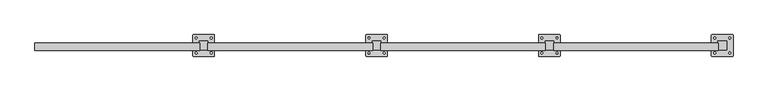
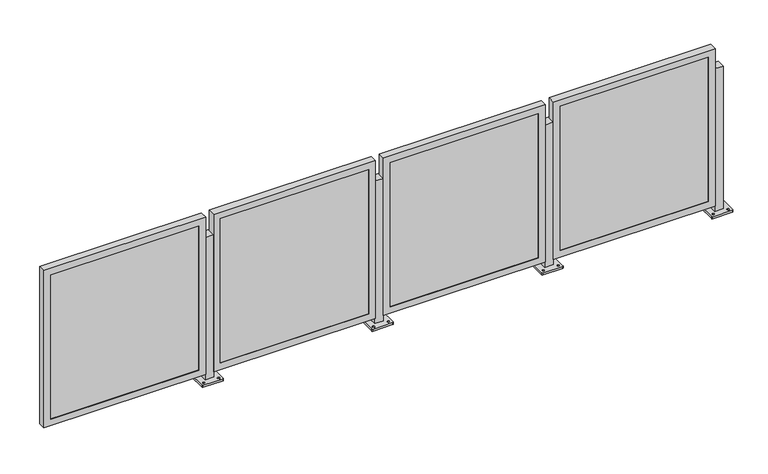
"""IFC4 building model written with IfcOpenShell, lengths in millimetres: railing geometry, Railing - Amico Architectural - Perforated Railing - Bilbao."""

from ifc_helpers import new_model, si_unit, frame, origin, place, context, project, spatial, polyline, circle_curve, outline, extrude, faceted_brep, source, transform, mapped, element, save
from ifc_brep_helpers import plane_surface, cylinder_surface, revolved_surface, advanced_brep


def railing_005fe630(model_context):
    return source(origin(), model_context, "Body", "SolidModel", [
        advanced_brep(
        [(-7245.6608616, -3820.6813531, 914.4), (-7245.6608616, -3871.4813531, 914.4), (-7194.8608616, -3871.4813531, 914.4), (-7194.8608616, -3820.6813531, 914.4), (-7283.7608618, -3906.4063121, 0.0), (-7283.7608618, -3785.7563942, 0.0), (-7280.5858336, -3782.581366, 0.0), (-7159.9358896, -3782.581366, 0.0), (-7156.7608615, -3785.7563942, 0.0), (-7156.7608615, -3906.4063121, 0.0), (-7159.9358896, -3909.5813403, 0.0), (-7280.5858336, -3909.5813403, 0.0), (-7264.7108492, -3896.0876078, 0.0), (-7264.7108492, -3884.9750953, 0.0), (-7264.7108601, -3807.1876034, 0.0), (-7264.7108601, -3796.0751218, 0.0), (-7175.8108482, -3896.0876063, 0.0), (-7175.8108482, -3884.9750956, 0.0), (-7175.8108591, -3807.1876019, 0.0), (-7175.8108591, -3796.0751221, 0.0), (-7245.6608616, -3820.6813531, 12.7), (-7245.6608616, -3871.4813531, 12.7), (-7194.8608616, -3871.4813531, 12.7), (-7194.8608616, -3820.6813531, 12.7), (-7283.7608618, -3906.4063121, 12.7), (-7280.5858336, -3909.5813403, 12.7), (-7159.9358896, -3909.5813403, 12.7), (-7156.7608615, -3906.4063121, 12.7), (-7156.7608615, -3785.7563942, 12.7), (-7159.9358896, -3782.581366, 12.7), (-7280.5858336, -3782.581366, 12.7), (-7283.7608618, -3785.7563942, 12.7), (-7264.7108492, -3896.0876078, 12.7), (-7264.7108492, -3884.9750953, 12.7), (-7264.7108601, -3807.1876034, 12.7), (-7264.7108601, -3796.0751218, 12.7), (-7175.8108482, -3896.0876063, 12.7), (-7175.8108482, -3884.9750956, 12.7), (-7175.8108591, -3807.1876019, 12.7), (-7175.8108591, -3796.0751221, 12.7)],
        [
            (0, 1),
            (1, 2),
            (2, 3),
            (3, 0),
            (4, 5),
            (5, 6, circle_curve(frame((-7280.5858336, -3785.7563942, 0.0), z_axis=(0.0, 0.0, -1.0), x_axis=(0.0, 1.0, 0.0)), 3.1750282)),
            (6, 7),
            (7, 8, circle_curve(frame((-7159.9358896, -3785.7563942, 0.0), z_axis=(0.0, 0.0, -1.0), x_axis=(0.0, 1.0, 0.0)), 3.1750282)),
            (8, 9),
            (9, 10, circle_curve(frame((-7159.9358896, -3906.4063121, 0.0), z_axis=(0.0, 0.0, -1.0), x_axis=(0.0, 1.0, 0.0)), 3.1750282)),
            (10, 11),
            (11, 4, circle_curve(frame((-7280.5858336, -3906.4063121, 0.0), z_axis=(0.0, 0.0, -1.0), x_axis=(0.0, 1.0, 0.0)), 3.1750282)),
            (12, 13, circle_curve(frame((-7264.7108492, -3890.5313516, 0.0), z_axis=(0.0, 0.0, 1.0), x_axis=(0.0, 1.0, 0.0)), 5.5562562)),
            (13, 12, circle_curve(frame((-7264.7108492, -3890.5313516, 0.0), z_axis=(0.0, 0.0, 1.0), x_axis=(0.0, 1.0, 0.0)), 5.5562562)),
            (14, 15, circle_curve(frame((-7264.7108601, -3801.6313626, 0.0), z_axis=(0.0, 0.0, 1.0), x_axis=(0.0, 1.0, 0.0)), 5.5562408)),
            (15, 14, circle_curve(frame((-7264.7108601, -3801.6313626, 0.0), z_axis=(0.0, 0.0, 1.0), x_axis=(0.0, 1.0, 0.0)), 5.5562408)),
            (16, 17, circle_curve(frame((-7175.8108482, -3890.5313509, 0.0), z_axis=(0.0, 0.0, 1.0), x_axis=(0.0, 1.0, 0.0)), 5.5562553)),
            (17, 16, circle_curve(frame((-7175.8108482, -3890.5313509, 0.0), z_axis=(0.0, 0.0, 1.0), x_axis=(0.0, 1.0, 0.0)), 5.5562553)),
            (18, 19, circle_curve(frame((-7175.8108591, -3801.631362, 0.0), z_axis=(0.0, 0.0, 1.0), x_axis=(0.0, 1.0, 0.0)), 5.5562399)),
            (19, 18, circle_curve(frame((-7175.8108591, -3801.631362, 0.0), z_axis=(0.0, 0.0, 1.0), x_axis=(0.0, 1.0, 0.0)), 5.5562399)),
            (0, 20),
            (20, 21),
            (21, 1),
            (21, 22),
            (22, 2),
            (22, 23),
            (23, 3),
            (23, 20),
            (24, 25, circle_curve(frame((-7280.5858336, -3906.4063121, 12.7), z_axis=(0.0, 0.0, 1.0), x_axis=(0.0, 1.0, 0.0)), 3.1750282)),
            (25, 26),
            (26, 27, circle_curve(frame((-7159.9358896, -3906.4063121, 12.7), z_axis=(0.0, 0.0, 1.0), x_axis=(0.0, 1.0, 0.0)), 3.1750282)),
            (27, 28),
            (28, 29, circle_curve(frame((-7159.9358896, -3785.7563942, 12.7), z_axis=(0.0, 0.0, 1.0), x_axis=(0.0, 1.0, 0.0)), 3.1750282)),
            (29, 30),
            (30, 31, circle_curve(frame((-7280.5858336, -3785.7563942, 12.7), z_axis=(0.0, 0.0, 1.0), x_axis=(0.0, 1.0, 0.0)), 3.1750282)),
            (31, 24),
            (32, 33, circle_curve(frame((-7264.7108492, -3890.5313516, 12.7), z_axis=(0.0, 0.0, -1.0), x_axis=(0.0, 1.0, 0.0)), 5.5562562)),
            (33, 32, circle_curve(frame((-7264.7108492, -3890.5313516, 12.7), z_axis=(0.0, 0.0, -1.0), x_axis=(0.0, 1.0, 0.0)), 5.5562562)),
            (34, 35, circle_curve(frame((-7264.7108601, -3801.6313626, 12.7), z_axis=(0.0, 0.0, -1.0), x_axis=(0.0, 1.0, 0.0)), 5.5562408)),
            (35, 34, circle_curve(frame((-7264.7108601, -3801.6313626, 12.7), z_axis=(0.0, 0.0, -1.0), x_axis=(0.0, 1.0, 0.0)), 5.5562408)),
            (36, 37, circle_curve(frame((-7175.8108482, -3890.5313509, 12.7), z_axis=(0.0, 0.0, -1.0), x_axis=(0.0, 1.0, 0.0)), 5.5562553)),
            (37, 36, circle_curve(frame((-7175.8108482, -3890.5313509, 12.7), z_axis=(0.0, 0.0, -1.0), x_axis=(0.0, 1.0, 0.0)), 5.5562553)),
            (38, 39, circle_curve(frame((-7175.8108591, -3801.631362, 12.7), z_axis=(0.0, 0.0, -1.0), x_axis=(0.0, 1.0, 0.0)), 5.5562399)),
            (39, 38, circle_curve(frame((-7175.8108591, -3801.631362, 12.7), z_axis=(0.0, 0.0, -1.0), x_axis=(0.0, 1.0, 0.0)), 5.5562399)),
            (24, 4),
            (11, 25),
            (10, 26),
            (9, 27),
            (8, 28),
            (7, 29),
            (6, 30),
            (5, 31),
            (32, 12),
            (13, 33),
            (34, 14),
            (15, 35),
            (36, 16),
            (17, 37),
            (38, 18),
            (19, 39),
        ],
        [
            plane_surface(frame((-7245.6608616, -3871.4813531, 914.4), z_axis=(0.0, 0.0, 1.0), x_axis=(0.0, -1.0, 0.0))),
            plane_surface(frame((-7245.6608616, -3871.4813531, 0.0), z_axis=(0.0, 0.0, -1.0), x_axis=(0.0, 1.0, 0.0))),
            plane_surface(frame((-7245.6608616, -3820.6813531, 914.4), z_axis=(-1.0, 0.0, 0.0), x_axis=(0.0, 0.0, -1.0))),
            plane_surface(frame((-7245.6608616, -3871.4813531, 914.4), z_axis=(0.0, -1.0, 0.0), x_axis=(0.0, 0.0, -1.0))),
            plane_surface(frame((-7194.8608616, -3871.4813531, 914.4), z_axis=(1.0, 0.0, 0.0), x_axis=(0.0, 0.0, -1.0))),
            plane_surface(frame((-7194.8608616, -3820.6813531, 914.4), z_axis=(0.0, 1.0, 0.0), x_axis=(0.0, 0.0, -1.0))),
            plane_surface(frame((-7280.5858336, -3903.231284, 12.7), z_axis=(0.0, 0.0, 1.0), x_axis=(-1.0, 0.0, 0.0))),
            cylinder_surface(frame((-7280.5858336, -3906.4063121, 0.0), z_axis=(0.0, 0.0, 1.0), x_axis=(0.0, 1.0, 0.0)), 3.1750282),
            plane_surface(frame((-7280.5858336, -3909.5813403, 12.7), z_axis=(1.1945386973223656e-12, -1.0, 0.0), x_axis=(0.0, 0.0, -1.0))),
            cylinder_surface(frame((-7159.9358896, -3906.4063121, 0.0), z_axis=(0.0, 0.0, 1.0), x_axis=(0.0, 1.0, 0.0)), 3.1750282),
            plane_surface(frame((-7156.7608615, -3906.4063121, 12.7), z_axis=(1.0, 0.0, 0.0), x_axis=(0.0, 0.0, -1.0))),
            cylinder_surface(frame((-7159.9358896, -3785.7563942, 0.0), z_axis=(0.0, 0.0, 1.0), x_axis=(0.0, 1.0, 0.0)), 3.1750282),
            plane_surface(frame((-7159.9358896, -3782.581366, 12.7), z_axis=(-1.1946088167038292e-12, 1.0, 0.0), x_axis=(0.0, 0.0, -1.0))),
            cylinder_surface(frame((-7280.5858336, -3785.7563942, 0.0), z_axis=(0.0, 0.0, 1.0), x_axis=(0.0, 1.0, 0.0)), 3.1750282),
            plane_surface(frame((-7283.7608618, -3785.7563942, 12.7), z_axis=(-1.0, 0.0, 0.0), x_axis=(0.0, 0.0, -1.0))),
            revolved_surface(polyline([(-7264.7108492, -3884.9750954, 0.0), (-7264.7108492, -3884.9750954, 12.7)]), (-7264.7108492, -3890.5313516, 0.0), (0.0, 0.0, -1.0)),
            revolved_surface(polyline([(-7264.7108601, -3796.0751218, 0.0), (-7264.7108601, -3796.0751218, 12.7)]), (-7264.7108601, -3801.6313626, 0.0), (0.0, 0.0, -1.0)),
            revolved_surface(polyline([(-7175.8108482, -3884.9750956, 0.0), (-7175.8108482, -3884.9750956, 12.7)]), (-7175.8108482, -3890.5313509, 0.0), (0.0, 0.0, -1.0)),
            revolved_surface(polyline([(-7175.8108591, -3796.0751221, 0.0), (-7175.8108591, -3796.0751221, 12.7)]), (-7175.8108591, -3801.631362, 0.0), (0.0, 0.0, -1.0)),
        ],
        [
            (0, [[1, 2, 3, 4]]),
            (1, [[5, 6, 7, 8, 9, 10, 11, 12], [13, 14], [15, 16], [17, 18], [19, 20]]),
            (2, [[-1, 21, 22, 23]]),
            (3, [[-2, -23, 24, 25]]),
            (4, [[-3, -25, 26, 27]]),
            (5, [[-4, -27, 28, -21]]),
            (6, [[29, 30, 31, 32, 33, 34, 35, 36], [-22, -28, -26, -24], [37, 38], [39, 40], [41, 42], [43, 44]]),
            (7, [[-29, 45, -12, 46]]),
            (8, [[-30, -46, -11, 47]]),
            (9, [[-31, -47, -10, 48]]),
            (10, [[-32, -48, -9, 49]]),
            (11, [[-33, -49, -8, 50]]),
            (12, [[-34, -50, -7, 51]]),
            (13, [[-35, -51, -6, 52]]),
            (14, [[-36, -52, -5, -45]]),
            (15, [[-37, 53, -14, 54]]),
            (15, [[-38, -54, -13, -53]]),
            (16, [[-39, 55, -16, 56]]),
            (16, [[-40, -56, -15, -55]]),
            (17, [[-41, 57, -18, 58]]),
            (17, [[-42, -58, -17, -57]]),
            (18, [[-43, 59, -20, 60]]),
            (18, [[-44, -60, -19, -59]]),
        ],
    ),
        faceted_brep([(-8212.065315, -3874.2245531, 47.625), (-7243.690315, -3874.2245531, 47.625), (-7243.690315, -3874.2245531, 1044.575), (-8212.065315, -3874.2245531, 1044.575), (-8170.790315, -3874.2245531, 1003.3), (-7284.965315, -3874.2245531, 1003.3), (-7284.965315, -3874.2245531, 88.9), (-8170.790315, -3874.2245531, 88.9), (-8170.790315, -3871.4813531, 1003.3), (-8170.790315, -3871.4813531, 88.9), (-8212.065315, -3830.3512566, 1044.575), (-8212.065315, -3830.3512566, 47.625), (-8208.890315, -3830.3512566, 1041.4), (-8208.890315, -3871.4813531, 1041.4), (-8208.890315, -3871.4813531, 50.8), (-8208.890315, -3830.3512566, 50.8), (-7284.965315, -3871.4813531, 88.9), (-7243.690315, -3830.3512566, 47.625), (-7246.865315, -3871.4813531, 50.8), (-7246.865315, -3830.3512566, 50.8), (-7284.965315, -3871.4813531, 1003.3), (-7243.690315, -3830.3512566, 1044.575), (-7246.865315, -3871.4813531, 1041.4), (-7246.865315, -3830.3512566, 1041.4)], [[[0, 1, 2, 3], [4, 5, 6, 7]], [[8, 4, 7, 9]], [[3, 10, 11, 0]], [[12, 13, 14, 15]], [[9, 7, 6, 16]], [[0, 11, 17, 1]], [[15, 14, 18, 19]], [[16, 6, 5, 20]], [[1, 17, 21, 2]], [[19, 18, 22, 23]], [[20, 5, 4, 8]], [[10, 21, 17, 11], [15, 19, 23, 12]], [[2, 21, 10, 3]], [[13, 22, 18, 14], [9, 16, 20, 8]], [[23, 22, 13, 12]]]),
        extrude(outline(polyline([(-8208.890315, -3861.9563531), (-7246.865315, -3861.9563531), (-7246.865315, -3871.4813531), (-8208.890315, -3871.4813531), (-8208.890315, -3861.9563531)])), frame((0.0, 0.0, 50.8), z_axis=(0.0, 0.0, 1.0), x_axis=(1.0, 0.0, 0.0)), (0.0, 0.0, 1.0), 990.6),
        advanced_brep(
        [(-8261.6608616, -3820.6813531, 914.4), (-8261.6608616, -3871.4813531, 914.4), (-8210.8608616, -3871.4813531, 914.4), (-8210.8608616, -3820.6813531, 914.4), (-8299.7608618, -3906.4063121, 0.0), (-8299.7608618, -3785.7563942, 0.0), (-8296.5858336, -3782.581366, 0.0), (-8175.9358896, -3782.581366, 0.0), (-8172.7608615, -3785.7563942, 0.0), (-8172.7608615, -3906.4063121, 0.0), (-8175.9358896, -3909.5813403, 0.0), (-8296.5858336, -3909.5813403, 0.0), (-8280.7108492, -3896.0876078, 0.0), (-8280.7108492, -3884.9750953, 0.0), (-8280.7108601, -3807.1876034, 0.0), (-8280.7108601, -3796.0751218, 0.0), (-8191.8108482, -3896.0876063, 0.0), (-8191.8108482, -3884.9750956, 0.0), (-8191.8108591, -3807.1876019, 0.0), (-8191.8108591, -3796.0751221, 0.0), (-8261.6608616, -3820.6813531, 12.7), (-8261.6608616, -3871.4813531, 12.7), (-8210.8608616, -3871.4813531, 12.7), (-8210.8608616, -3820.6813531, 12.7), (-8299.7608618, -3906.4063121, 12.7), (-8296.5858336, -3909.5813403, 12.7), (-8175.9358896, -3909.5813403, 12.7), (-8172.7608615, -3906.4063121, 12.7), (-8172.7608615, -3785.7563942, 12.7), (-8175.9358896, -3782.581366, 12.7), (-8296.5858336, -3782.581366, 12.7), (-8299.7608618, -3785.7563942, 12.7), (-8280.7108492, -3896.0876078, 12.7), (-8280.7108492, -3884.9750953, 12.7), (-8280.7108601, -3807.1876034, 12.7), (-8280.7108601, -3796.0751218, 12.7), (-8191.8108482, -3896.0876063, 12.7), (-8191.8108482, -3884.9750956, 12.7), (-8191.8108591, -3807.1876019, 12.7), (-8191.8108591, -3796.0751221, 12.7)],
        [
            (0, 1),
            (1, 2),
            (2, 3),
            (3, 0),
            (4, 5),
            (5, 6, circle_curve(frame((-8296.5858336, -3785.7563942, 0.0), z_axis=(0.0, 0.0, -1.0), x_axis=(0.0, 1.0, 0.0)), 3.1750282)),
            (6, 7),
            (7, 8, circle_curve(frame((-8175.9358896, -3785.7563942, 0.0), z_axis=(0.0, 0.0, -1.0), x_axis=(0.0, 1.0, 0.0)), 3.1750282)),
            (8, 9),
            (9, 10, circle_curve(frame((-8175.9358896, -3906.4063121, 0.0), z_axis=(0.0, 0.0, -1.0), x_axis=(0.0, 1.0, 0.0)), 3.1750282)),
            (10, 11),
            (11, 4, circle_curve(frame((-8296.5858336, -3906.4063121, 0.0), z_axis=(0.0, 0.0, -1.0), x_axis=(0.0, 1.0, 0.0)), 3.1750282)),
            (12, 13, circle_curve(frame((-8280.7108492, -3890.5313516, 0.0), z_axis=(0.0, 0.0, 1.0), x_axis=(0.0, 1.0, 0.0)), 5.5562562)),
            (13, 12, circle_curve(frame((-8280.7108492, -3890.5313516, 0.0), z_axis=(0.0, 0.0, 1.0), x_axis=(0.0, 1.0, 0.0)), 5.5562562)),
            (14, 15, circle_curve(frame((-8280.7108601, -3801.6313626, 0.0), z_axis=(0.0, 0.0, 1.0), x_axis=(0.0, 1.0, 0.0)), 5.5562408)),
            (15, 14, circle_curve(frame((-8280.7108601, -3801.6313626, 0.0), z_axis=(0.0, 0.0, 1.0), x_axis=(0.0, 1.0, 0.0)), 5.5562408)),
            (16, 17, circle_curve(frame((-8191.8108482, -3890.5313509, 0.0), z_axis=(0.0, 0.0, 1.0), x_axis=(0.0, 1.0, 0.0)), 5.5562553)),
            (17, 16, circle_curve(frame((-8191.8108482, -3890.5313509, 0.0), z_axis=(0.0, 0.0, 1.0), x_axis=(0.0, 1.0, 0.0)), 5.5562553)),
            (18, 19, circle_curve(frame((-8191.8108591, -3801.631362, 0.0), z_axis=(0.0, 0.0, 1.0), x_axis=(0.0, 1.0, 0.0)), 5.5562399)),
            (19, 18, circle_curve(frame((-8191.8108591, -3801.631362, 0.0), z_axis=(0.0, 0.0, 1.0), x_axis=(0.0, 1.0, 0.0)), 5.5562399)),
            (0, 20),
            (20, 21),
            (21, 1),
            (21, 22),
            (22, 2),
            (22, 23),
            (23, 3),
            (23, 20),
            (24, 25, circle_curve(frame((-8296.5858336, -3906.4063121, 12.7), z_axis=(0.0, 0.0, 1.0), x_axis=(0.0, 1.0, 0.0)), 3.1750282)),
            (25, 26),
            (26, 27, circle_curve(frame((-8175.9358896, -3906.4063121, 12.7), z_axis=(0.0, 0.0, 1.0), x_axis=(0.0, 1.0, 0.0)), 3.1750282)),
            (27, 28),
            (28, 29, circle_curve(frame((-8175.9358896, -3785.7563942, 12.7), z_axis=(0.0, 0.0, 1.0), x_axis=(0.0, 1.0, 0.0)), 3.1750282)),
            (29, 30),
            (30, 31, circle_curve(frame((-8296.5858336, -3785.7563942, 12.7), z_axis=(0.0, 0.0, 1.0), x_axis=(0.0, 1.0, 0.0)), 3.1750282)),
            (31, 24),
            (32, 33, circle_curve(frame((-8280.7108492, -3890.5313516, 12.7), z_axis=(0.0, 0.0, -1.0), x_axis=(0.0, 1.0, 0.0)), 5.5562562)),
            (33, 32, circle_curve(frame((-8280.7108492, -3890.5313516, 12.7), z_axis=(0.0, 0.0, -1.0), x_axis=(0.0, 1.0, 0.0)), 5.5562562)),
            (34, 35, circle_curve(frame((-8280.7108601, -3801.6313626, 12.7), z_axis=(0.0, 0.0, -1.0), x_axis=(0.0, 1.0, 0.0)), 5.5562408)),
            (35, 34, circle_curve(frame((-8280.7108601, -3801.6313626, 12.7), z_axis=(0.0, 0.0, -1.0), x_axis=(0.0, 1.0, 0.0)), 5.5562408)),
            (36, 37, circle_curve(frame((-8191.8108482, -3890.5313509, 12.7), z_axis=(0.0, 0.0, -1.0), x_axis=(0.0, 1.0, 0.0)), 5.5562553)),
            (37, 36, circle_curve(frame((-8191.8108482, -3890.5313509, 12.7), z_axis=(0.0, 0.0, -1.0), x_axis=(0.0, 1.0, 0.0)), 5.5562553)),
            (38, 39, circle_curve(frame((-8191.8108591, -3801.631362, 12.7), z_axis=(0.0, 0.0, -1.0), x_axis=(0.0, 1.0, 0.0)), 5.5562399)),
            (39, 38, circle_curve(frame((-8191.8108591, -3801.631362, 12.7), z_axis=(0.0, 0.0, -1.0), x_axis=(0.0, 1.0, 0.0)), 5.5562399)),
            (24, 4),
            (11, 25),
            (10, 26),
            (9, 27),
            (8, 28),
            (7, 29),
            (6, 30),
            (5, 31),
            (32, 12),
            (13, 33),
            (34, 14),
            (15, 35),
            (36, 16),
            (17, 37),
            (38, 18),
            (19, 39),
        ],
        [
            plane_surface(frame((-8261.6608616, -3871.4813531, 914.4), z_axis=(0.0, 0.0, 1.0), x_axis=(0.0, -1.0, 0.0))),
            plane_surface(frame((-8261.6608616, -3871.4813531, 0.0), z_axis=(0.0, 0.0, -1.0), x_axis=(0.0, 1.0, 0.0))),
            plane_surface(frame((-8261.6608616, -3820.6813531, 914.4), z_axis=(-1.0, 0.0, 0.0), x_axis=(0.0, 0.0, -1.0))),
            plane_surface(frame((-8261.6608616, -3871.4813531, 914.4), z_axis=(0.0, -1.0, 0.0), x_axis=(0.0, 0.0, -1.0))),
            plane_surface(frame((-8210.8608616, -3871.4813531, 914.4), z_axis=(1.0, 0.0, 0.0), x_axis=(0.0, 0.0, -1.0))),
            plane_surface(frame((-8210.8608616, -3820.6813531, 914.4), z_axis=(0.0, 1.0, 0.0), x_axis=(0.0, 0.0, -1.0))),
            plane_surface(frame((-8296.5858336, -3903.231284, 12.7), z_axis=(0.0, 0.0, 1.0), x_axis=(-1.0, 0.0, 0.0))),
            cylinder_surface(frame((-8296.5858336, -3906.4063121, 0.0), z_axis=(0.0, 0.0, 1.0), x_axis=(0.0, 1.0, 0.0)), 3.1750282),
            plane_surface(frame((-8296.5858336, -3909.5813403, 12.7), z_axis=(1.1945386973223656e-12, -1.0, 0.0), x_axis=(0.0, 0.0, -1.0))),
            cylinder_surface(frame((-8175.9358896, -3906.4063121, 0.0), z_axis=(0.0, 0.0, 1.0), x_axis=(0.0, 1.0, 0.0)), 3.1750282),
            plane_surface(frame((-8172.7608615, -3906.4063121, 12.7), z_axis=(1.0, 0.0, 0.0), x_axis=(0.0, 0.0, -1.0))),
            cylinder_surface(frame((-8175.9358896, -3785.7563942, 0.0), z_axis=(0.0, 0.0, 1.0), x_axis=(0.0, 1.0, 0.0)), 3.1750282),
            plane_surface(frame((-8175.9358896, -3782.581366, 12.7), z_axis=(-1.1946088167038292e-12, 1.0, 0.0), x_axis=(0.0, 0.0, -1.0))),
            cylinder_surface(frame((-8296.5858336, -3785.7563942, 0.0), z_axis=(0.0, 0.0, 1.0), x_axis=(0.0, 1.0, 0.0)), 3.1750282),
            plane_surface(frame((-8299.7608618, -3785.7563942, 12.7), z_axis=(-1.0, 0.0, 0.0), x_axis=(0.0, 0.0, -1.0))),
            revolved_surface(polyline([(-8280.7108492, -3884.9750954, 0.0), (-8280.7108492, -3884.9750954, 12.7)]), (-8280.7108492, -3890.5313516, 0.0), (0.0, 0.0, -1.0)),
            revolved_surface(polyline([(-8280.7108601, -3796.0751218, 0.0), (-8280.7108601, -3796.0751218, 12.7)]), (-8280.7108601, -3801.6313626, 0.0), (0.0, 0.0, -1.0)),
            revolved_surface(polyline([(-8191.8108482, -3884.9750956, 0.0), (-8191.8108482, -3884.9750956, 12.7)]), (-8191.8108482, -3890.5313509, 0.0), (0.0, 0.0, -1.0)),
            revolved_surface(polyline([(-8191.8108591, -3796.0751221, 0.0), (-8191.8108591, -3796.0751221, 12.7)]), (-8191.8108591, -3801.631362, 0.0), (0.0, 0.0, -1.0)),
        ],
        [
            (0, [[1, 2, 3, 4]]),
            (1, [[5, 6, 7, 8, 9, 10, 11, 12], [13, 14], [15, 16], [17, 18], [19, 20]]),
            (2, [[-1, 21, 22, 23]]),
            (3, [[-2, -23, 24, 25]]),
            (4, [[-3, -25, 26, 27]]),
            (5, [[-4, -27, 28, -21]]),
            (6, [[29, 30, 31, 32, 33, 34, 35, 36], [-22, -28, -26, -24], [37, 38], [39, 40], [41, 42], [43, 44]]),
            (7, [[-29, 45, -12, 46]]),
            (8, [[-30, -46, -11, 47]]),
            (9, [[-31, -47, -10, 48]]),
            (10, [[-32, -48, -9, 49]]),
            (11, [[-33, -49, -8, 50]]),
            (12, [[-34, -50, -7, 51]]),
            (13, [[-35, -51, -6, 52]]),
            (14, [[-36, -52, -5, -45]]),
            (15, [[-37, 53, -14, 54]]),
            (15, [[-38, -54, -13, -53]]),
            (16, [[-39, 55, -16, 56]]),
            (16, [[-40, -56, -15, -55]]),
            (17, [[-41, 57, -18, 58]]),
            (17, [[-42, -58, -17, -57]]),
            (18, [[-43, 59, -20, 60]]),
            (18, [[-44, -60, -19, -59]]),
        ],
    ),
        faceted_brep([(-9228.065315, -3874.2245531, 47.625), (-8259.690315, -3874.2245531, 47.625), (-8259.690315, -3874.2245531, 1044.575), (-9228.065315, -3874.2245531, 1044.575), (-9186.790315, -3874.2245531, 1003.3), (-8300.965315, -3874.2245531, 1003.3), (-8300.965315, -3874.2245531, 88.9), (-9186.790315, -3874.2245531, 88.9), (-9186.790315, -3871.4813531, 1003.3), (-9186.790315, -3871.4813531, 88.9), (-9228.065315, -3830.3512566, 1044.575), (-9228.065315, -3830.3512566, 47.625), (-9224.890315, -3830.3512566, 1041.4), (-9224.890315, -3871.4813531, 1041.4), (-9224.890315, -3871.4813531, 50.8), (-9224.890315, -3830.3512566, 50.8), (-8300.965315, -3871.4813531, 88.9), (-8259.690315, -3830.3512566, 47.625), (-8262.865315, -3871.4813531, 50.8), (-8262.865315, -3830.3512566, 50.8), (-8300.965315, -3871.4813531, 1003.3), (-8259.690315, -3830.3512566, 1044.575), (-8262.865315, -3871.4813531, 1041.4), (-8262.865315, -3830.3512566, 1041.4)], [[[0, 1, 2, 3], [4, 5, 6, 7]], [[8, 4, 7, 9]], [[3, 10, 11, 0]], [[12, 13, 14, 15]], [[9, 7, 6, 16]], [[0, 11, 17, 1]], [[15, 14, 18, 19]], [[16, 6, 5, 20]], [[1, 17, 21, 2]], [[19, 18, 22, 23]], [[20, 5, 4, 8]], [[10, 21, 17, 11], [15, 19, 23, 12]], [[2, 21, 10, 3]], [[13, 22, 18, 14], [9, 16, 20, 8]], [[23, 22, 13, 12]]]),
        extrude(outline(polyline([(-9224.890315, -3861.9563531), (-8262.865315, -3861.9563531), (-8262.865315, -3871.4813531), (-9224.890315, -3871.4813531), (-9224.890315, -3861.9563531)])), frame((0.0, 0.0, 50.8), z_axis=(0.0, 0.0, 1.0), x_axis=(1.0, 0.0, 0.0)), (0.0, 0.0, 1.0), 990.6),
        advanced_brep(
        [(-9277.6608616, -3820.6813531, 914.4), (-9277.6608616, -3871.4813531, 914.4), (-9226.8608616, -3871.4813531, 914.4), (-9226.8608616, -3820.6813531, 914.4), (-9315.7608618, -3906.4063121, 0.0), (-9315.7608618, -3785.7563942, 0.0), (-9312.5858336, -3782.581366, 0.0), (-9191.9358896, -3782.581366, 0.0), (-9188.7608615, -3785.7563942, 0.0), (-9188.7608615, -3906.4063121, 0.0), (-9191.9358896, -3909.5813403, 0.0), (-9312.5858336, -3909.5813403, 0.0), (-9296.7108492, -3896.0876078, 0.0), (-9296.7108492, -3884.9750953, 0.0), (-9296.7108601, -3807.1876034, 0.0), (-9296.7108601, -3796.0751218, 0.0), (-9207.8108482, -3896.0876063, 0.0), (-9207.8108482, -3884.9750956, 0.0), (-9207.8108591, -3807.1876019, 0.0), (-9207.8108591, -3796.0751221, 0.0), (-9277.6608616, -3820.6813531, 12.7), (-9277.6608616, -3871.4813531, 12.7), (-9226.8608616, -3871.4813531, 12.7), (-9226.8608616, -3820.6813531, 12.7), (-9315.7608618, -3906.4063121, 12.7), (-9312.5858336, -3909.5813403, 12.7), (-9191.9358896, -3909.5813403, 12.7), (-9188.7608615, -3906.4063121, 12.7), (-9188.7608615, -3785.7563942, 12.7), (-9191.9358896, -3782.581366, 12.7), (-9312.5858336, -3782.581366, 12.7), (-9315.7608618, -3785.7563942, 12.7), (-9296.7108492, -3896.0876078, 12.7), (-9296.7108492, -3884.9750953, 12.7), (-9296.7108601, -3807.1876034, 12.7), (-9296.7108601, -3796.0751218, 12.7), (-9207.8108482, -3896.0876063, 12.7), (-9207.8108482, -3884.9750956, 12.7), (-9207.8108591, -3807.1876019, 12.7), (-9207.8108591, -3796.0751221, 12.7)],
        [
            (0, 1),
            (1, 2),
            (2, 3),
            (3, 0),
            (4, 5),
            (5, 6, circle_curve(frame((-9312.5858336, -3785.7563942, 0.0), z_axis=(0.0, 0.0, -1.0), x_axis=(0.0, 1.0, 0.0)), 3.1750282)),
            (6, 7),
            (7, 8, circle_curve(frame((-9191.9358896, -3785.7563942, 0.0), z_axis=(0.0, 0.0, -1.0), x_axis=(0.0, 1.0, 0.0)), 3.1750282)),
            (8, 9),
            (9, 10, circle_curve(frame((-9191.9358896, -3906.4063121, 0.0), z_axis=(0.0, 0.0, -1.0), x_axis=(0.0, 1.0, 0.0)), 3.1750282)),
            (10, 11),
            (11, 4, circle_curve(frame((-9312.5858336, -3906.4063121, 0.0), z_axis=(0.0, 0.0, -1.0), x_axis=(0.0, 1.0, 0.0)), 3.1750282)),
            (12, 13, circle_curve(frame((-9296.7108492, -3890.5313516, 0.0), z_axis=(0.0, 0.0, 1.0), x_axis=(0.0, 1.0, 0.0)), 5.5562562)),
            (13, 12, circle_curve(frame((-9296.7108492, -3890.5313516, 0.0), z_axis=(0.0, 0.0, 1.0), x_axis=(0.0, 1.0, 0.0)), 5.5562562)),
            (14, 15, circle_curve(frame((-9296.7108601, -3801.6313626, 0.0), z_axis=(0.0, 0.0, 1.0), x_axis=(0.0, 1.0, 0.0)), 5.5562408)),
            (15, 14, circle_curve(frame((-9296.7108601, -3801.6313626, 0.0), z_axis=(0.0, 0.0, 1.0), x_axis=(0.0, 1.0, 0.0)), 5.5562408)),
            (16, 17, circle_curve(frame((-9207.8108482, -3890.5313509, 0.0), z_axis=(0.0, 0.0, 1.0), x_axis=(0.0, 1.0, 0.0)), 5.5562553)),
            (17, 16, circle_curve(frame((-9207.8108482, -3890.5313509, 0.0), z_axis=(0.0, 0.0, 1.0), x_axis=(0.0, 1.0, 0.0)), 5.5562553)),
            (18, 19, circle_curve(frame((-9207.8108591, -3801.631362, 0.0), z_axis=(0.0, 0.0, 1.0), x_axis=(0.0, 1.0, 0.0)), 5.5562399)),
            (19, 18, circle_curve(frame((-9207.8108591, -3801.631362, 0.0), z_axis=(0.0, 0.0, 1.0), x_axis=(0.0, 1.0, 0.0)), 5.5562399)),
            (0, 20),
            (20, 21),
            (21, 1),
            (21, 22),
            (22, 2),
            (22, 23),
            (23, 3),
            (23, 20),
            (24, 25, circle_curve(frame((-9312.5858336, -3906.4063121, 12.7), z_axis=(0.0, 0.0, 1.0), x_axis=(0.0, 1.0, 0.0)), 3.1750282)),
            (25, 26),
            (26, 27, circle_curve(frame((-9191.9358896, -3906.4063121, 12.7), z_axis=(0.0, 0.0, 1.0), x_axis=(0.0, 1.0, 0.0)), 3.1750282)),
            (27, 28),
            (28, 29, circle_curve(frame((-9191.9358896, -3785.7563942, 12.7), z_axis=(0.0, 0.0, 1.0), x_axis=(0.0, 1.0, 0.0)), 3.1750282)),
            (29, 30),
            (30, 31, circle_curve(frame((-9312.5858336, -3785.7563942, 12.7), z_axis=(0.0, 0.0, 1.0), x_axis=(0.0, 1.0, 0.0)), 3.1750282)),
            (31, 24),
            (32, 33, circle_curve(frame((-9296.7108492, -3890.5313516, 12.7), z_axis=(0.0, 0.0, -1.0), x_axis=(0.0, 1.0, 0.0)), 5.5562562)),
            (33, 32, circle_curve(frame((-9296.7108492, -3890.5313516, 12.7), z_axis=(0.0, 0.0, -1.0), x_axis=(0.0, 1.0, 0.0)), 5.5562562)),
            (34, 35, circle_curve(frame((-9296.7108601, -3801.6313626, 12.7), z_axis=(0.0, 0.0, -1.0), x_axis=(0.0, 1.0, 0.0)), 5.5562408)),
            (35, 34, circle_curve(frame((-9296.7108601, -3801.6313626, 12.7), z_axis=(0.0, 0.0, -1.0), x_axis=(0.0, 1.0, 0.0)), 5.5562408)),
            (36, 37, circle_curve(frame((-9207.8108482, -3890.5313509, 12.7), z_axis=(0.0, 0.0, -1.0), x_axis=(0.0, 1.0, 0.0)), 5.5562553)),
            (37, 36, circle_curve(frame((-9207.8108482, -3890.5313509, 12.7), z_axis=(0.0, 0.0, -1.0), x_axis=(0.0, 1.0, 0.0)), 5.5562553)),
            (38, 39, circle_curve(frame((-9207.8108591, -3801.631362, 12.7), z_axis=(0.0, 0.0, -1.0), x_axis=(0.0, 1.0, 0.0)), 5.5562399)),
            (39, 38, circle_curve(frame((-9207.8108591, -3801.631362, 12.7), z_axis=(0.0, 0.0, -1.0), x_axis=(0.0, 1.0, 0.0)), 5.5562399)),
            (24, 4),
            (11, 25),
            (10, 26),
            (9, 27),
            (8, 28),
            (7, 29),
            (6, 30),
            (5, 31),
            (32, 12),
            (13, 33),
            (34, 14),
            (15, 35),
            (36, 16),
            (17, 37),
            (38, 18),
            (19, 39),
        ],
        [
            plane_surface(frame((-9277.6608616, -3871.4813531, 914.4), z_axis=(0.0, 0.0, 1.0), x_axis=(0.0, -1.0, 0.0))),
            plane_surface(frame((-9277.6608616, -3871.4813531, 0.0), z_axis=(0.0, 0.0, -1.0), x_axis=(0.0, 1.0, 0.0))),
            plane_surface(frame((-9277.6608616, -3820.6813531, 914.4), z_axis=(-1.0, 0.0, 0.0), x_axis=(0.0, 0.0, -1.0))),
            plane_surface(frame((-9277.6608616, -3871.4813531, 914.4), z_axis=(0.0, -1.0, 0.0), x_axis=(0.0, 0.0, -1.0))),
            plane_surface(frame((-9226.8608616, -3871.4813531, 914.4), z_axis=(1.0, 0.0, 0.0), x_axis=(0.0, 0.0, -1.0))),
            plane_surface(frame((-9226.8608616, -3820.6813531, 914.4), z_axis=(0.0, 1.0, 0.0), x_axis=(0.0, 0.0, -1.0))),
            plane_surface(frame((-9312.5858336, -3903.231284, 12.7), z_axis=(0.0, 0.0, 1.0), x_axis=(-1.0, 0.0, 0.0))),
            cylinder_surface(frame((-9312.5858336, -3906.4063121, 0.0), z_axis=(0.0, 0.0, 1.0), x_axis=(0.0, 1.0, 0.0)), 3.1750282),
            plane_surface(frame((-9312.5858336, -3909.5813403, 12.7), z_axis=(1.1945386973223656e-12, -1.0, 0.0), x_axis=(0.0, 0.0, -1.0))),
            cylinder_surface(frame((-9191.9358896, -3906.4063121, 0.0), z_axis=(0.0, 0.0, 1.0), x_axis=(0.0, 1.0, 0.0)), 3.1750282),
            plane_surface(frame((-9188.7608615, -3906.4063121, 12.7), z_axis=(1.0, 0.0, 0.0), x_axis=(0.0, 0.0, -1.0))),
            cylinder_surface(frame((-9191.9358896, -3785.7563942, 0.0), z_axis=(0.0, 0.0, 1.0), x_axis=(0.0, 1.0, 0.0)), 3.1750282),
            plane_surface(frame((-9191.9358896, -3782.581366, 12.7), z_axis=(-1.1946088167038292e-12, 1.0, 0.0), x_axis=(0.0, 0.0, -1.0))),
            cylinder_surface(frame((-9312.5858336, -3785.7563942, 0.0), z_axis=(0.0, 0.0, 1.0), x_axis=(0.0, 1.0, 0.0)), 3.1750282),
            plane_surface(frame((-9315.7608618, -3785.7563942, 12.7), z_axis=(-1.0, 0.0, 0.0), x_axis=(0.0, 0.0, -1.0))),
            revolved_surface(polyline([(-9296.7108492, -3884.9750954, 0.0), (-9296.7108492, -3884.9750954, 12.7)]), (-9296.7108492, -3890.5313516, 0.0), (0.0, 0.0, -1.0)),
            revolved_surface(polyline([(-9296.7108601, -3796.0751218, 0.0), (-9296.7108601, -3796.0751218, 12.7)]), (-9296.7108601, -3801.6313626, 0.0), (0.0, 0.0, -1.0)),
            revolved_surface(polyline([(-9207.8108482, -3884.9750956, 0.0), (-9207.8108482, -3884.9750956, 12.7)]), (-9207.8108482, -3890.5313509, 0.0), (0.0, 0.0, -1.0)),
            revolved_surface(polyline([(-9207.8108591, -3796.0751221, 0.0), (-9207.8108591, -3796.0751221, 12.7)]), (-9207.8108591, -3801.631362, 0.0), (0.0, 0.0, -1.0)),
        ],
        [
            (0, [[1, 2, 3, 4]]),
            (1, [[5, 6, 7, 8, 9, 10, 11, 12], [13, 14], [15, 16], [17, 18], [19, 20]]),
            (2, [[-1, 21, 22, 23]]),
            (3, [[-2, -23, 24, 25]]),
            (4, [[-3, -25, 26, 27]]),
            (5, [[-4, -27, 28, -21]]),
            (6, [[29, 30, 31, 32, 33, 34, 35, 36], [-22, -28, -26, -24], [37, 38], [39, 40], [41, 42], [43, 44]]),
            (7, [[-29, 45, -12, 46]]),
            (8, [[-30, -46, -11, 47]]),
            (9, [[-31, -47, -10, 48]]),
            (10, [[-32, -48, -9, 49]]),
            (11, [[-33, -49, -8, 50]]),
            (12, [[-34, -50, -7, 51]]),
            (13, [[-35, -51, -6, 52]]),
            (14, [[-36, -52, -5, -45]]),
            (15, [[-37, 53, -14, 54]]),
            (15, [[-38, -54, -13, -53]]),
            (16, [[-39, 55, -16, 56]]),
            (16, [[-40, -56, -15, -55]]),
            (17, [[-41, 57, -18, 58]]),
            (17, [[-42, -58, -17, -57]]),
            (18, [[-43, 59, -20, 60]]),
            (18, [[-44, -60, -19, -59]]),
        ],
    ),
        faceted_brep([(-10244.065315, -3874.2245531, 47.625), (-9275.690315, -3874.2245531, 47.625), (-9275.690315, -3874.2245531, 1044.575), (-10244.065315, -3874.2245531, 1044.575), (-10202.790315, -3874.2245531, 1003.3), (-9316.965315, -3874.2245531, 1003.3), (-9316.965315, -3874.2245531, 88.9), (-10202.790315, -3874.2245531, 88.9), (-10202.790315, -3871.4813531, 1003.3), (-10202.790315, -3871.4813531, 88.9), (-10244.065315, -3830.3512566, 1044.575), (-10244.065315, -3830.3512566, 47.625), (-10240.890315, -3830.3512566, 1041.4), (-10240.890315, -3871.4813531, 1041.4), (-10240.890315, -3871.4813531, 50.8), (-10240.890315, -3830.3512566, 50.8), (-9316.965315, -3871.4813531, 88.9), (-9275.690315, -3830.3512566, 47.625), (-9278.865315, -3871.4813531, 50.8), (-9278.865315, -3830.3512566, 50.8), (-9316.965315, -3871.4813531, 1003.3), (-9275.690315, -3830.3512566, 1044.575), (-9278.865315, -3871.4813531, 1041.4), (-9278.865315, -3830.3512566, 1041.4)], [[[0, 1, 2, 3], [4, 5, 6, 7]], [[8, 4, 7, 9]], [[3, 10, 11, 0]], [[12, 13, 14, 15]], [[9, 7, 6, 16]], [[0, 11, 17, 1]], [[15, 14, 18, 19]], [[16, 6, 5, 20]], [[1, 17, 21, 2]], [[19, 18, 22, 23]], [[20, 5, 4, 8]], [[10, 21, 17, 11], [15, 19, 23, 12]], [[2, 21, 10, 3]], [[13, 22, 18, 14], [9, 16, 20, 8]], [[23, 22, 13, 12]]]),
        extrude(outline(polyline([(-10240.890315, -3861.9563531), (-9278.865315, -3861.9563531), (-9278.865315, -3871.4813531), (-10240.890315, -3871.4813531), (-10240.890315, -3861.9563531)])), frame((0.0, 0.0, 50.8), z_axis=(0.0, 0.0, 1.0), x_axis=(1.0, 0.0, 0.0)), (0.0, 0.0, 1.0), 990.6),
        advanced_brep(
        [(-10293.6608616, -3820.6813531, 914.4), (-10293.6608616, -3871.4813531, 914.4), (-10242.8608616, -3871.4813531, 914.4), (-10242.8608616, -3820.6813531, 914.4), (-10331.7608618, -3906.4063121, 0.0), (-10331.7608618, -3785.7563942, 0.0), (-10328.5858336, -3782.581366, 0.0), (-10207.9358896, -3782.581366, 0.0), (-10204.7608615, -3785.7563942, 0.0), (-10204.7608615, -3906.4063121, 0.0), (-10207.9358896, -3909.5813403, 0.0), (-10328.5858336, -3909.5813403, 0.0), (-10312.7108492, -3896.0876078, 0.0), (-10312.7108492, -3884.9750953, 0.0), (-10312.7108601, -3807.1876034, 0.0), (-10312.7108601, -3796.0751218, 0.0), (-10223.8108482, -3896.0876063, 0.0), (-10223.8108482, -3884.9750956, 0.0), (-10223.8108591, -3807.1876019, 0.0), (-10223.8108591, -3796.0751221, 0.0), (-10293.6608616, -3820.6813531, 12.7), (-10293.6608616, -3871.4813531, 12.7), (-10242.8608616, -3871.4813531, 12.7), (-10242.8608616, -3820.6813531, 12.7), (-10331.7608618, -3906.4063121, 12.7), (-10328.5858336, -3909.5813403, 12.7), (-10207.9358896, -3909.5813403, 12.7), (-10204.7608615, -3906.4063121, 12.7), (-10204.7608615, -3785.7563942, 12.7), (-10207.9358896, -3782.581366, 12.7), (-10328.5858336, -3782.581366, 12.7), (-10331.7608618, -3785.7563942, 12.7), (-10312.7108492, -3896.0876078, 12.7), (-10312.7108492, -3884.9750953, 12.7), (-10312.7108601, -3807.1876034, 12.7), (-10312.7108601, -3796.0751218, 12.7), (-10223.8108482, -3896.0876063, 12.7), (-10223.8108482, -3884.9750956, 12.7), (-10223.8108591, -3807.1876019, 12.7), (-10223.8108591, -3796.0751221, 12.7)],
        [
            (0, 1),
            (1, 2),
            (2, 3),
            (3, 0),
            (4, 5),
            (5, 6, circle_curve(frame((-10328.5858336, -3785.7563942, 0.0), z_axis=(0.0, 0.0, -1.0), x_axis=(0.0, 1.0, 0.0)), 3.1750282)),
            (6, 7),
            (7, 8, circle_curve(frame((-10207.9358896, -3785.7563942, 0.0), z_axis=(0.0, 0.0, -1.0), x_axis=(0.0, 1.0, 0.0)), 3.1750282)),
            (8, 9),
            (9, 10, circle_curve(frame((-10207.9358896, -3906.4063121, 0.0), z_axis=(0.0, 0.0, -1.0), x_axis=(0.0, 1.0, 0.0)), 3.1750282)),
            (10, 11),
            (11, 4, circle_curve(frame((-10328.5858336, -3906.4063121, 0.0), z_axis=(0.0, 0.0, -1.0), x_axis=(0.0, 1.0, 0.0)), 3.1750282)),
            (12, 13, circle_curve(frame((-10312.7108492, -3890.5313516, 0.0), z_axis=(0.0, 0.0, 1.0), x_axis=(0.0, 1.0, 0.0)), 5.5562562)),
            (13, 12, circle_curve(frame((-10312.7108492, -3890.5313516, 0.0), z_axis=(0.0, 0.0, 1.0), x_axis=(0.0, 1.0, 0.0)), 5.5562562)),
            (14, 15, circle_curve(frame((-10312.7108601, -3801.6313626, 0.0), z_axis=(0.0, 0.0, 1.0), x_axis=(0.0, 1.0, 0.0)), 5.5562408)),
            (15, 14, circle_curve(frame((-10312.7108601, -3801.6313626, 0.0), z_axis=(0.0, 0.0, 1.0), x_axis=(0.0, 1.0, 0.0)), 5.5562408)),
            (16, 17, circle_curve(frame((-10223.8108482, -3890.5313509, 0.0), z_axis=(0.0, 0.0, 1.0), x_axis=(0.0, 1.0, 0.0)), 5.5562553)),
            (17, 16, circle_curve(frame((-10223.8108482, -3890.5313509, 0.0), z_axis=(0.0, 0.0, 1.0), x_axis=(0.0, 1.0, 0.0)), 5.5562553)),
            (18, 19, circle_curve(frame((-10223.8108591, -3801.631362, 0.0), z_axis=(0.0, 0.0, 1.0), x_axis=(0.0, 1.0, 0.0)), 5.5562399)),
            (19, 18, circle_curve(frame((-10223.8108591, -3801.631362, 0.0), z_axis=(0.0, 0.0, 1.0), x_axis=(0.0, 1.0, 0.0)), 5.5562399)),
            (0, 20),
            (20, 21),
            (21, 1),
            (21, 22),
            (22, 2),
            (22, 23),
            (23, 3),
            (23, 20),
            (24, 25, circle_curve(frame((-10328.5858336, -3906.4063121, 12.7), z_axis=(0.0, 0.0, 1.0), x_axis=(0.0, 1.0, 0.0)), 3.1750282)),
            (25, 26),
            (26, 27, circle_curve(frame((-10207.9358896, -3906.4063121, 12.7), z_axis=(0.0, 0.0, 1.0), x_axis=(0.0, 1.0, 0.0)), 3.1750282)),
            (27, 28),
            (28, 29, circle_curve(frame((-10207.9358896, -3785.7563942, 12.7), z_axis=(0.0, 0.0, 1.0), x_axis=(0.0, 1.0, 0.0)), 3.1750282)),
            (29, 30),
            (30, 31, circle_curve(frame((-10328.5858336, -3785.7563942, 12.7), z_axis=(0.0, 0.0, 1.0), x_axis=(0.0, 1.0, 0.0)), 3.1750282)),
            (31, 24),
            (32, 33, circle_curve(frame((-10312.7108492, -3890.5313516, 12.7), z_axis=(0.0, 0.0, -1.0), x_axis=(0.0, 1.0, 0.0)), 5.5562562)),
            (33, 32, circle_curve(frame((-10312.7108492, -3890.5313516, 12.7), z_axis=(0.0, 0.0, -1.0), x_axis=(0.0, 1.0, 0.0)), 5.5562562)),
            (34, 35, circle_curve(frame((-10312.7108601, -3801.6313626, 12.7), z_axis=(0.0, 0.0, -1.0), x_axis=(0.0, 1.0, 0.0)), 5.5562408)),
            (35, 34, circle_curve(frame((-10312.7108601, -3801.6313626, 12.7), z_axis=(0.0, 0.0, -1.0), x_axis=(0.0, 1.0, 0.0)), 5.5562408)),
            (36, 37, circle_curve(frame((-10223.8108482, -3890.5313509, 12.7), z_axis=(0.0, 0.0, -1.0), x_axis=(0.0, 1.0, 0.0)), 5.5562553)),
            (37, 36, circle_curve(frame((-10223.8108482, -3890.5313509, 12.7), z_axis=(0.0, 0.0, -1.0), x_axis=(0.0, 1.0, 0.0)), 5.5562553)),
            (38, 39, circle_curve(frame((-10223.8108591, -3801.631362, 12.7), z_axis=(0.0, 0.0, -1.0), x_axis=(0.0, 1.0, 0.0)), 5.5562399)),
            (39, 38, circle_curve(frame((-10223.8108591, -3801.631362, 12.7), z_axis=(0.0, 0.0, -1.0), x_axis=(0.0, 1.0, 0.0)), 5.5562399)),
            (24, 4),
            (11, 25),
            (10, 26),
            (9, 27),
            (8, 28),
            (7, 29),
            (6, 30),
            (5, 31),
            (32, 12),
            (13, 33),
            (34, 14),
            (15, 35),
            (36, 16),
            (17, 37),
            (38, 18),
            (19, 39),
        ],
        [
            plane_surface(frame((-10293.6608616, -3871.4813531, 914.4), z_axis=(0.0, 0.0, 1.0), x_axis=(0.0, -1.0, 0.0))),
            plane_surface(frame((-10293.6608616, -3871.4813531, 0.0), z_axis=(0.0, 0.0, -1.0), x_axis=(0.0, 1.0, 0.0))),
            plane_surface(frame((-10293.6608616, -3820.6813531, 914.4), z_axis=(-1.0, 0.0, 0.0), x_axis=(0.0, 0.0, -1.0))),
            plane_surface(frame((-10293.6608616, -3871.4813531, 914.4), z_axis=(0.0, -1.0, 0.0), x_axis=(0.0, 0.0, -1.0))),
            plane_surface(frame((-10242.8608616, -3871.4813531, 914.4), z_axis=(1.0, 0.0, 0.0), x_axis=(0.0, 0.0, -1.0))),
            plane_surface(frame((-10242.8608616, -3820.6813531, 914.4), z_axis=(0.0, 1.0, 0.0), x_axis=(0.0, 0.0, -1.0))),
            plane_surface(frame((-10328.5858336, -3903.231284, 12.7), z_axis=(0.0, 0.0, 1.0), x_axis=(-1.0, 0.0, 0.0))),
            cylinder_surface(frame((-10328.5858336, -3906.4063121, 0.0), z_axis=(0.0, 0.0, 1.0), x_axis=(0.0, 1.0, 0.0)), 3.1750282),
            plane_surface(frame((-10328.5858336, -3909.5813403, 12.7), z_axis=(1.1945386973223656e-12, -1.0, 0.0), x_axis=(0.0, 0.0, -1.0))),
            cylinder_surface(frame((-10207.9358896, -3906.4063121, 0.0), z_axis=(0.0, 0.0, 1.0), x_axis=(0.0, 1.0, 0.0)), 3.1750282),
            plane_surface(frame((-10204.7608615, -3906.4063121, 12.7), z_axis=(1.0, 0.0, 0.0), x_axis=(0.0, 0.0, -1.0))),
            cylinder_surface(frame((-10207.9358896, -3785.7563942, 0.0), z_axis=(0.0, 0.0, 1.0), x_axis=(0.0, 1.0, 0.0)), 3.1750282),
            plane_surface(frame((-10207.9358896, -3782.581366, 12.7), z_axis=(-1.1946088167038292e-12, 1.0, 0.0), x_axis=(0.0, 0.0, -1.0))),
            cylinder_surface(frame((-10328.5858336, -3785.7563942, 0.0), z_axis=(0.0, 0.0, 1.0), x_axis=(0.0, 1.0, 0.0)), 3.1750282),
            plane_surface(frame((-10331.7608618, -3785.7563942, 12.7), z_axis=(-1.0, 0.0, 0.0), x_axis=(0.0, 0.0, -1.0))),
            revolved_surface(polyline([(-10312.7108492, -3884.9750954, 0.0), (-10312.7108492, -3884.9750954, 12.7)]), (-10312.7108492, -3890.5313516, 0.0), (0.0, 0.0, -1.0)),
            revolved_surface(polyline([(-10312.7108601, -3796.0751218, 0.0), (-10312.7108601, -3796.0751218, 12.7)]), (-10312.7108601, -3801.6313626, 0.0), (0.0, 0.0, -1.0)),
            revolved_surface(polyline([(-10223.8108482, -3884.9750956, 0.0), (-10223.8108482, -3884.9750956, 12.7)]), (-10223.8108482, -3890.5313509, 0.0), (0.0, 0.0, -1.0)),
            revolved_surface(polyline([(-10223.8108591, -3796.0751221, 0.0), (-10223.8108591, -3796.0751221, 12.7)]), (-10223.8108591, -3801.631362, 0.0), (0.0, 0.0, -1.0)),
        ],
        [
            (0, [[1, 2, 3, 4]]),
            (1, [[5, 6, 7, 8, 9, 10, 11, 12], [13, 14], [15, 16], [17, 18], [19, 20]]),
            (2, [[-1, 21, 22, 23]]),
            (3, [[-2, -23, 24, 25]]),
            (4, [[-3, -25, 26, 27]]),
            (5, [[-4, -27, 28, -21]]),
            (6, [[29, 30, 31, 32, 33, 34, 35, 36], [-22, -28, -26, -24], [37, 38], [39, 40], [41, 42], [43, 44]]),
            (7, [[-29, 45, -12, 46]]),
            (8, [[-30, -46, -11, 47]]),
            (9, [[-31, -47, -10, 48]]),
            (10, [[-32, -48, -9, 49]]),
            (11, [[-33, -49, -8, 50]]),
            (12, [[-34, -50, -7, 51]]),
            (13, [[-35, -51, -6, 52]]),
            (14, [[-36, -52, -5, -45]]),
            (15, [[-37, 53, -14, 54]]),
            (15, [[-38, -54, -13, -53]]),
            (16, [[-39, 55, -16, 56]]),
            (16, [[-40, -56, -15, -55]]),
            (17, [[-41, 57, -18, 58]]),
            (17, [[-42, -58, -17, -57]]),
            (18, [[-43, 59, -20, 60]]),
            (18, [[-44, -60, -19, -59]]),
        ],
    ),
        faceted_brep([(-11260.065315, -3874.2245531, 47.625), (-10291.690315, -3874.2245531, 47.625), (-10291.690315, -3874.2245531, 1044.575), (-11260.065315, -3874.2245531, 1044.575), (-11218.790315, -3874.2245531, 1003.3), (-10332.965315, -3874.2245531, 1003.3), (-10332.965315, -3874.2245531, 88.9), (-11218.790315, -3874.2245531, 88.9), (-11218.790315, -3871.4813531, 1003.3), (-11218.790315, -3871.4813531, 88.9), (-11260.065315, -3830.3512566, 1044.575), (-11260.065315, -3830.3512566, 47.625), (-11256.890315, -3830.3512566, 1041.4), (-11256.890315, -3871.4813531, 1041.4), (-11256.890315, -3871.4813531, 50.8), (-11256.890315, -3830.3512566, 50.8), (-10332.965315, -3871.4813531, 88.9), (-10291.690315, -3830.3512566, 47.625), (-10294.865315, -3871.4813531, 50.8), (-10294.865315, -3830.3512566, 50.8), (-10332.965315, -3871.4813531, 1003.3), (-10291.690315, -3830.3512566, 1044.575), (-10294.865315, -3871.4813531, 1041.4), (-10294.865315, -3830.3512566, 1041.4)], [[[0, 1, 2, 3], [4, 5, 6, 7]], [[8, 4, 7, 9]], [[3, 10, 11, 0]], [[12, 13, 14, 15]], [[9, 7, 6, 16]], [[0, 11, 17, 1]], [[15, 14, 18, 19]], [[16, 6, 5, 20]], [[1, 17, 21, 2]], [[19, 18, 22, 23]], [[20, 5, 4, 8]], [[10, 21, 17, 11], [15, 19, 23, 12]], [[2, 21, 10, 3]], [[13, 22, 18, 14], [9, 16, 20, 8]], [[23, 22, 13, 12]]]),
        extrude(outline(polyline([(-11256.890315, -3861.9563531), (-10294.865315, -3861.9563531), (-10294.865315, -3871.4813531), (-11256.890315, -3871.4813531), (-11256.890315, -3861.9563531)])), frame((0.0, 0.0, 50.8), z_axis=(0.0, 0.0, 1.0), x_axis=(1.0, 0.0, 0.0)), (0.0, 0.0, 1.0), 990.6),
    ])


if __name__ == "__main__":
    model = new_model("IFC4")
    model_context = context("Model", 3, world=origin())
    ifc_project = project(units=[si_unit("LENGTHUNIT", "METRE", prefix="MILLI")], contexts=[model_context])
    site = spatial("IfcSite", under=ifc_project)
    building = spatial("IfcBuilding", under=site)
    placement = place(None, origin())
    railing_shape = railing_005fe630(model_context)
    element("IfcRailing", 1, ObjectType="Railing - Amico Architectural - Perforated Railing - Bilbao", at=placement, inside=building, context=model_context, shape_type="MappedRepresentation", body=[
        mapped(railing_shape, transform((0.0, 0.0, 0.0), x_axis=(1.0, 0.0, 0.0), y_axis=(0.0, 1.0, 0.0), z_axis=(0.0, 0.0, 1.0))),
    ])
    save(model, "model.ifc")
